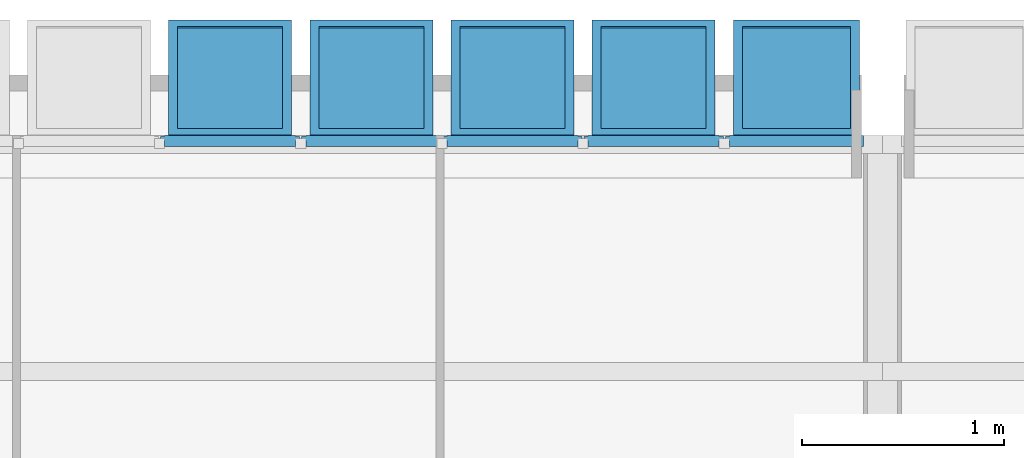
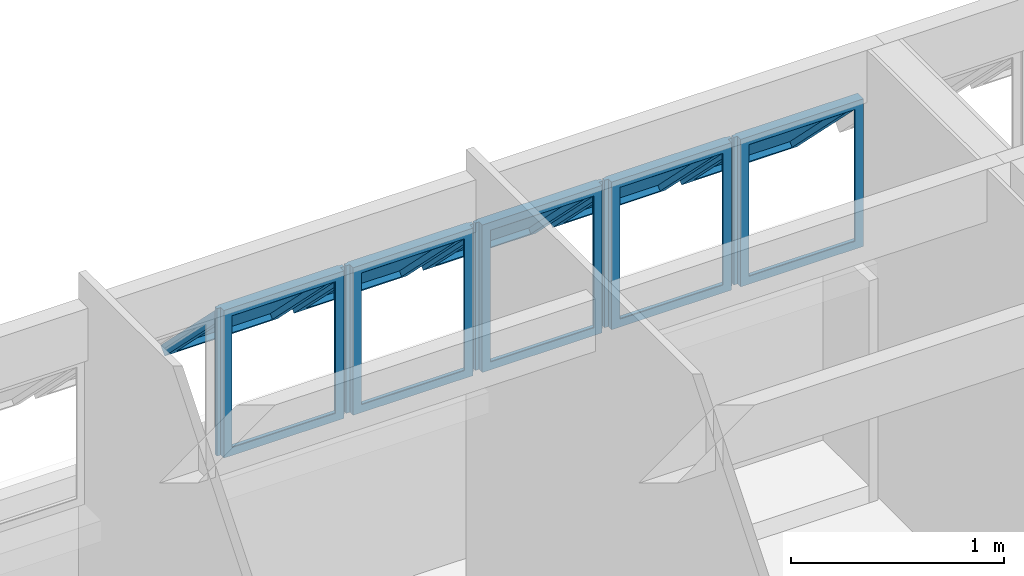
# One storey, part 15 of 40: 5 plates, 1 element without a shape of its own.
"""IFC4 building model written with IfcOpenShell, lengths in millimetres."""

from ifc_helpers import new_model, entity, si_unit, converted_unit, derived_unit, direction, frame, origin_with_axes, place, context, subcontext, project, spatial, polygons, source, transform, mapped, material, constituent, constituent_set, type_object, element, aggregate, save


model = new_model("IFC4")

# Units and contexts
model_context = context("Model", 3, precision=0.01, world=origin_with_axes(), true_north=direction((0.0, 1.0)))
body_context = subcontext(model_context, "Body", "Model", "MODEL_VIEW")
ifc_project = project(units=[si_unit("LENGTHUNIT", "METRE", prefix="MILLI"), si_unit("AREAUNIT", "SQUARE_METRE"), si_unit("VOLUMEUNIT", "CUBIC_METRE"), converted_unit("PLANEANGLEUNIT", "DEGREE", entity("IfcPlaneAngleMeasure", 0.0174532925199), si_unit("PLANEANGLEUNIT", "RADIAN"), dimensions=[0, 0, 0, 0, 0, 0, 0]), converted_unit("TIMEUNIT", "Year", entity("IfcTimeMeasure", 31556926.0), si_unit("TIMEUNIT", "SECOND"), dimensions=[0, 0, 1, 0, 0, 0, 0]), si_unit("MASSUNIT", "GRAM", prefix="KILO"), si_unit("THERMODYNAMICTEMPERATUREUNIT", "DEGREE_CELSIUS"), si_unit("LUMINOUSINTENSITYUNIT", "LUMEN"), si_unit("ENERGYUNIT", "JOULE", prefix="MEGA"), derived_unit("THERMALCONDUCTANCEUNIT", [(si_unit("POWERUNIT", "WATT"), 1), (si_unit("LENGTHUNIT", "METRE"), -1), (si_unit("THERMODYNAMICTEMPERATUREUNIT", "KELVIN"), -1)]), derived_unit("SPECIFICHEATCAPACITYUNIT", [(si_unit("ENERGYUNIT", "JOULE"), 1), (si_unit("MASSUNIT", "GRAM", prefix="KILO"), -1), (si_unit("THERMODYNAMICTEMPERATUREUNIT", "KELVIN"), -1)]), derived_unit("MASSDENSITYUNIT", [(si_unit("MASSUNIT", "GRAM", prefix="KILO"), 1), (si_unit("VOLUMEUNIT", "CUBIC_METRE"), -1)])], contexts=[model_context])

# Site, building, storey
site_placement = place(None, origin_with_axes())
site = spatial("IfcSite", under=ifc_project, at=site_placement, Name="Local", CompositionType="ELEMENT")
building_placement = place(site_placement, origin_with_axes())
building = spatial("IfcBuilding", under=site, at=building_placement, Name="Construção", CompositionType="ELEMENT")
storey_placement = place(building_placement, origin_with_axes())
storey = spatial("IfcBuildingStorey", under=building, at=storey_placement, Name="Primeiro Pavimento", CompositionType="ELEMENT", Elevation=0.0)

# Window, plates
window_type = type_object("IfcWindowType", Name="Tipo de Parede Cortina", PartitioningType="NOTDEFINED", PredefinedType="NOTDEFINED")
window_placement = place(storey_placement, frame((6250.0, 25844.9790225, 1355.02054151), z_axis=(0.0, 0.0, 1.0), x_axis=(1.0, 0.0, 0.0)))
window = element("IfcWindow", 1, at=window_placement, inside=storey, type_object=window_type, Name="APTO3-JANELA-001", PredefinedType="NOTDEFINED")
ifc_material_1 = material(Name="Alumínio")
ifc_constituent_1 = constituent(ifc_material_1, Name="Alumínio")
ifc_material_2 = material(Name="Vidro")
ifc_constituent_2 = constituent(ifc_material_2, Name="Vidro")
ifc_constituent_set_1 = constituent_set(constituents=[ifc_constituent_1, ifc_constituent_2])
plate_type_1 = type_object("IfcPlateType", Name="Painel Principal 690 x 845 x 20", PredefinedType="CURTAIN_PANEL")
shared_shape_1 = source(origin_with_axes(), body_context, "Body", "Tessellation", [
    polygons([(-25.0000036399, 0.0, -40.0), (-25.0000036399, 0.0, -35.0), (-674.999997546, 0.0, -35.0), (-674.999997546, 0.0, -40.0), (-70.0000036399, 45.0, -40.0), (-70.0000036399, 45.0, -35.0), (-629.999997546, 45.0, -35.0), (-629.999997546, 45.0, -40.0)], [[[1, 2, 3, 4]], [[5, 6, 2, 1]], [[2, 6, 7, 3]], [[4, 3, 7, 8]], [[1, 4, 8, 5]], [[8, 7, 6, 5]]], closed=True),
    polygons([(-674.999997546, 0.0, -40.0), (-674.999997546, 0.0, -35.0), (-674.999997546, 844.999891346, -35.0), (-674.999997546, 844.999891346, -40.0), (-629.999997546, 45.0, -40.0), (-629.999997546, 45.0, -35.0), (-629.999997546, 799.999891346, -35.0), (-629.999997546, 799.999891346, -40.0)], [[[1, 2, 3, 4]], [[5, 6, 2, 1]], [[2, 6, 7, 3]], [[4, 3, 7, 8]], [[1, 4, 8, 5]], [[8, 7, 6, 5]]], closed=True),
    polygons([(-25.0000036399, 844.999891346, -40.0), (-25.0000036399, 844.999891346, -35.0), (-70.0000036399, 799.999891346, -35.0), (-70.0000036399, 799.999891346, -40.0), (-674.999997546, 844.999891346, -40.0), (-674.999997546, 844.999891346, -35.0), (-629.999997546, 799.999891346, -35.0), (-629.999997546, 799.999891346, -40.0)], [[[1, 2, 3, 4]], [[5, 6, 2, 1]], [[2, 6, 7, 3]], [[4, 3, 7, 8]], [[1, 4, 8, 5]], [[8, 7, 6, 5]]], closed=True),
    polygons([(-25.0000036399, 0.0, -40.0), (-25.0000036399, 0.0, -35.0), (-70.0000036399, 45.0, -35.0), (-70.0000036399, 45.0, -40.0), (-25.0000036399, 844.999891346, -40.0), (-25.0000036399, 844.999891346, -35.0), (-70.0000036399, 799.999891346, -35.0), (-70.0000036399, 799.999891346, -40.0)], [[[1, 2, 3, 4]], [[5, 6, 2, 1]], [[2, 6, 7, 3]], [[4, 3, 7, 8]], [[1, 4, 8, 5]], [[8, 7, 6, 5]]], closed=True),
    polygons([(-25.0000036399, 0.0, -35.0), (-25.0000036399, 0.0, 15.0), (-674.999997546, 0.0, 15.0), (-674.999997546, 0.0, -35.0), (-45.0000036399, 20.0, -35.0), (-45.0000036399, 20.0, 15.0), (-654.999997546, 20.0, 15.0), (-654.999997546, 20.0, -35.0)], [[[1, 2, 3, 4]], [[5, 6, 2, 1]], [[2, 6, 7, 3]], [[4, 3, 7, 8]], [[1, 4, 8, 5]], [[8, 7, 6, 5]]], closed=True),
    polygons([(-674.999997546, 0.0, -35.0), (-674.999997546, 0.0, 15.0), (-674.999997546, 844.999891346, 15.0), (-674.999997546, 844.999891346, -35.0), (-654.999997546, 20.0, -35.0), (-654.999997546, 20.0, 15.0), (-654.999997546, 824.999891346, 15.0), (-654.999997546, 824.999891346, -35.0)], [[[1, 2, 3, 4]], [[5, 6, 2, 1]], [[2, 6, 7, 3]], [[4, 3, 7, 8]], [[1, 4, 8, 5]], [[8, 7, 6, 5]]], closed=True),
    polygons([(-25.0000036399, 844.999891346, -35.0), (-25.0000036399, 844.999891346, 15.0), (-45.0000036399, 824.999891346, 15.0), (-45.0000036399, 824.999891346, -35.0), (-674.999997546, 844.999891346, -35.0), (-674.999997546, 844.999891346, 15.0), (-654.999997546, 824.999891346, 15.0), (-654.999997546, 824.999891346, -35.0)], [[[1, 2, 3, 4]], [[5, 6, 2, 1]], [[2, 6, 7, 3]], [[4, 3, 7, 8]], [[1, 4, 8, 5]], [[8, 7, 6, 5]]], closed=True),
    polygons([(-25.0000036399, 0.0, -35.0), (-25.0000036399, 0.0, 15.0), (-45.0000036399, 20.0, 15.0), (-45.0000036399, 20.0, -35.0), (-25.0000036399, 844.999891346, -35.0), (-25.0000036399, 844.999891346, 15.0), (-45.0000036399, 824.999891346, 15.0), (-45.0000036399, 824.999891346, -35.0)], [[[1, 2, 3, 4]], [[5, 6, 2, 1]], [[2, 6, 7, 3]], [[4, 3, 7, 8]], [[1, 4, 8, 5]], [[8, 7, 6, 5]]], closed=True),
    polygons([(-694.999995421, 0.0, -10.0), (-694.999995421, 0.0, 10.0), (-694.999995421, 844.999891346, 10.0), (-694.999995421, 844.999891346, -10.0), (-674.999997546, 0.0, -10.0), (-674.999997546, 0.0, 10.0), (-674.999997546, 844.999891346, 10.0), (-674.999997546, 844.999891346, -10.0)], [[[1, 2, 3, 4]], [[5, 6, 2, 1]], [[2, 6, 7, 3]], [[4, 3, 7, 8]], [[1, 4, 8, 5]], [[8, 7, 6, 5]]], closed=True),
    polygons([(-5.00000576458, 844.999891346, -10.0), (-5.00000576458, 844.999891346, 10.0), (-5.00000576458, 0.0, 10.0), (-5.00000576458, 0.0, -10.0), (-25.0000036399, 844.999891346, -10.0), (-25.0000036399, 844.999891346, 10.0), (-25.0000036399, 0.0, 10.0), (-25.0000036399, 0.0, -10.0)], [[[1, 2, 3, 4]], [[5, 6, 2, 1]], [[2, 6, 7, 3]], [[4, 3, 7, 8]], [[1, 4, 8, 5]], [[8, 7, 6, 5]]], closed=True),
    polygons([(-90.0000036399, 252.243475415, 517.045737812), (-90.0000036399, 291.13434838, 555.936610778), (-90.0000036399, 796.715620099, 50.3553390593), (-90.0000036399, 757.824747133, 11.4644660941), (-45.0000036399, 220.423670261, 548.865542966), (-45.0000036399, 259.314543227, 587.756415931), (-45.0000036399, 828.535425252, 18.5355339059), (-45.0000036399, 789.644552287, -20.3553390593)], [[[1, 2, 3, 4]], [[5, 6, 2, 1]], [[2, 6, 7, 3]], [[4, 3, 7, 8]], [[1, 4, 8, 5]], [[8, 7, 6, 5]]], closed=True),
    polygons([(-654.999997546, 220.423670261, 548.865542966), (-654.999997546, 259.314543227, 587.756415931), (-654.999997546, 828.535425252, 18.5355339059), (-654.999997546, 789.644552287, -20.3553390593), (-609.999997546, 252.243475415, 517.045737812), (-609.999997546, 291.13434838, 555.936610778), (-609.999997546, 796.715620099, 50.3553390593), (-609.999997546, 757.824747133, 11.4644660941)], [[[1, 2, 3, 4]], [[5, 6, 2, 1]], [[2, 6, 7, 3]], [[4, 3, 7, 8]], [[1, 4, 8, 5]], [[8, 7, 6, 5]]], closed=True),
    polygons([(-654.999997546, 220.423670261, 548.865542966), (-654.999997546, 259.314543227, 587.756415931), (-609.999997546, 291.13434838, 555.936610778), (-609.999997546, 252.243475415, 517.045737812), (-45.0000036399, 220.423670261, 548.865542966), (-45.0000036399, 259.314543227, 587.756415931), (-90.0000036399, 291.13434838, 555.936610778), (-90.0000036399, 252.243475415, 517.045737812)], [[[1, 2, 3, 4]], [[5, 6, 2, 1]], [[2, 6, 7, 3]], [[4, 3, 7, 8]], [[1, 4, 8, 5]], [[8, 7, 6, 5]]], closed=True),
    polygons([(-45.0000036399, 789.644552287, -20.3553390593), (-45.0000036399, 828.535425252, 18.5355339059), (-90.0000036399, 796.715620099, 50.3553390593), (-90.0000036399, 757.824747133, 11.4644660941), (-654.999997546, 789.644552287, -20.3553390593), (-654.999997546, 828.535425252, 18.5355339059), (-609.999997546, 796.715620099, 50.3553390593), (-609.999997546, 757.824747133, 11.4644660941)], [[[1, 2, 3, 4]], [[5, 6, 2, 1]], [[2, 6, 7, 3]], [[4, 3, 7, 8]], [[1, 4, 8, 5]], [[8, 7, 6, 5]]], closed=True),
    polygons([(-90.0000036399, 272.749572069, 537.551834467), (-90.0000036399, 284.063280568, 548.865542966), (-609.999997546, 284.063280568, 548.865542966), (-609.999997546, 272.749572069, 537.551834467), (-90.0000036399, 778.330843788, 31.9705627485), (-90.0000036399, 789.644552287, 43.2842712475), (-609.999997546, 789.644552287, 43.2842712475), (-609.999997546, 778.330843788, 31.9705627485)], [[[1, 2, 3, 4]], [[5, 6, 2, 1]], [[2, 6, 7, 3]], [[4, 3, 7, 8]], [[1, 4, 8, 5]], [[8, 7, 6, 5]]], closed=True),
])
plate_1_placement = place(window_placement, frame((0.0, 0.0, 422.499945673), z_axis=(0.0, 0.0, 1.0), x_axis=(-1.0, 0.0, 0.0)))
plate_1 = element("IfcPlate", 2, at=plate_1_placement, type_object=plate_type_1, material=ifc_constituent_set_1, Name="APTO3-Painel-Prin-030", PredefinedType="CURTAIN_PANEL", context=body_context, shape_type="MappedRepresentation", body=[
    mapped(shared_shape_1, transform((350.0, 0.0, -422.499945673), x_axis=(1.0, 0.0, 0.0), y_axis=(0.0, 0.0, 1.0), z_axis=(0.0, -1.0, 0.0))),
])
ifc_constituent_3 = constituent(ifc_material_1, Name="Alumínio")
ifc_constituent_4 = constituent(ifc_material_2, Name="Vidro")
ifc_constituent_set_2 = constituent_set(constituents=[ifc_constituent_3, ifc_constituent_4])
plate_2_placement = place(window_placement, frame((-700.0, 0.0, 422.499945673), z_axis=(0.0, 0.0, 1.0), x_axis=(-1.0, 0.0, 0.0)))
plate_2 = element("IfcPlate", 3, at=plate_2_placement, type_object=plate_type_1, material=ifc_constituent_set_2, Name="APTO3-Painel-Prin-020", PredefinedType="CURTAIN_PANEL", context=body_context, shape_type="MappedRepresentation", body=[
    mapped(shared_shape_1, transform((350.0, 0.0, -422.499945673), x_axis=(1.0, 0.0, 0.0), y_axis=(0.0, 0.0, 1.0), z_axis=(0.0, -1.0, 0.0))),
])
ifc_constituent_5 = constituent(ifc_material_1, Name="Alumínio")
ifc_constituent_6 = constituent(ifc_material_2, Name="Vidro")
ifc_constituent_set_3 = constituent_set(constituents=[ifc_constituent_5, ifc_constituent_6])
plate_3_placement = place(window_placement, frame((-1400.0, 0.0, 422.499945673), z_axis=(0.0, 0.0, 1.0), x_axis=(-1.0, 0.0, 0.0)))
plate_3 = element("IfcPlate", 4, at=plate_3_placement, type_object=plate_type_1, material=ifc_constituent_set_3, Name="APTO3-Painel-Prin-029", PredefinedType="CURTAIN_PANEL", context=body_context, shape_type="MappedRepresentation", body=[
    mapped(shared_shape_1, transform((350.0, 0.0, -422.499945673), x_axis=(1.0, 0.0, 0.0), y_axis=(0.0, 0.0, 1.0), z_axis=(0.0, -1.0, 0.0))),
])
ifc_constituent_7 = constituent(ifc_material_1, Name="Alumínio")
ifc_constituent_8 = constituent(ifc_material_2, Name="Vidro")
ifc_constituent_set_4 = constituent_set(constituents=[ifc_constituent_7, ifc_constituent_8])
shared_shape_2 = source(origin_with_axes(), body_context, "Body", "Tessellation", [
    polygons([(-25.0000036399, 0.0, -40.0), (-25.0000036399, 0.0, -35.0), (-674.999997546, 0.0, -35.0), (-674.999997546, 0.0, -40.0), (-70.0000036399, 45.0, -40.0), (-70.0000036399, 45.0, -35.0), (-629.999997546, 45.0, -35.0), (-629.999997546, 45.0, -40.0)], [[[1, 2, 3, 4]], [[5, 6, 2, 1]], [[2, 6, 7, 3]], [[4, 3, 7, 8]], [[1, 4, 8, 5]], [[8, 7, 6, 5]]], closed=True),
    polygons([(-674.999997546, 0.0, -40.0), (-674.999997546, 0.0, -35.0), (-674.999997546, 844.999891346, -35.0), (-674.999997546, 844.999891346, -40.0), (-629.999997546, 45.0, -40.0), (-629.999997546, 45.0, -35.0), (-629.999997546, 799.999891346, -35.0), (-629.999997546, 799.999891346, -40.0)], [[[1, 2, 3, 4]], [[5, 6, 2, 1]], [[2, 6, 7, 3]], [[4, 3, 7, 8]], [[1, 4, 8, 5]], [[8, 7, 6, 5]]], closed=True),
    polygons([(-25.0000036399, 844.999891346, -40.0), (-25.0000036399, 844.999891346, -35.0), (-70.0000036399, 799.999891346, -35.0), (-70.0000036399, 799.999891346, -40.0), (-674.999997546, 844.999891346, -40.0), (-674.999997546, 844.999891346, -35.0), (-629.999997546, 799.999891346, -35.0), (-629.999997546, 799.999891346, -40.0)], [[[1, 2, 3, 4]], [[5, 6, 2, 1]], [[2, 6, 7, 3]], [[4, 3, 7, 8]], [[1, 4, 8, 5]], [[8, 7, 6, 5]]], closed=True),
    polygons([(-25.0000036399, 0.0, -40.0), (-25.0000036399, 0.0, -35.0), (-70.0000036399, 45.0, -35.0), (-70.0000036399, 45.0, -40.0), (-25.0000036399, 844.999891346, -40.0), (-25.0000036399, 844.999891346, -35.0), (-70.0000036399, 799.999891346, -35.0), (-70.0000036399, 799.999891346, -40.0)], [[[1, 2, 3, 4]], [[5, 6, 2, 1]], [[2, 6, 7, 3]], [[4, 3, 7, 8]], [[1, 4, 8, 5]], [[8, 7, 6, 5]]], closed=True),
    polygons([(-25.0000036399, 0.0, -35.0), (-25.0000036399, 0.0, 15.0), (-674.999997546, 0.0, 15.0), (-674.999997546, 0.0, -35.0), (-45.0000036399, 20.0, -35.0), (-45.0000036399, 20.0, 15.0), (-654.999997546, 20.0, 15.0), (-654.999997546, 20.0, -35.0)], [[[1, 2, 3, 4]], [[5, 6, 2, 1]], [[2, 6, 7, 3]], [[4, 3, 7, 8]], [[1, 4, 8, 5]], [[8, 7, 6, 5]]], closed=True),
    polygons([(-674.999997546, 0.0, -35.0), (-674.999997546, 0.0, 15.0), (-674.999997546, 844.999891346, 15.0), (-674.999997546, 844.999891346, -35.0), (-654.999997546, 20.0, -35.0), (-654.999997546, 20.0, 15.0), (-654.999997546, 824.999891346, 15.0), (-654.999997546, 824.999891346, -35.0)], [[[1, 2, 3, 4]], [[5, 6, 2, 1]], [[2, 6, 7, 3]], [[4, 3, 7, 8]], [[1, 4, 8, 5]], [[8, 7, 6, 5]]], closed=True),
    polygons([(-25.0000036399, 844.999891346, -35.0), (-25.0000036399, 844.999891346, 15.0), (-45.0000036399, 824.999891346, 15.0), (-45.0000036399, 824.999891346, -35.0), (-674.999997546, 844.999891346, -35.0), (-674.999997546, 844.999891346, 15.0), (-654.999997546, 824.999891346, 15.0), (-654.999997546, 824.999891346, -35.0)], [[[1, 2, 3, 4]], [[5, 6, 2, 1]], [[2, 6, 7, 3]], [[4, 3, 7, 8]], [[1, 4, 8, 5]], [[8, 7, 6, 5]]], closed=True),
    polygons([(-25.0000036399, 0.0, -35.0), (-25.0000036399, 0.0, 15.0), (-45.0000036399, 20.0, 15.0), (-45.0000036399, 20.0, -35.0), (-25.0000036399, 844.999891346, -35.0), (-25.0000036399, 844.999891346, 15.0), (-45.0000036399, 824.999891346, 15.0), (-45.0000036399, 824.999891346, -35.0)], [[[1, 2, 3, 4]], [[5, 6, 2, 1]], [[2, 6, 7, 3]], [[4, 3, 7, 8]], [[1, 4, 8, 5]], [[8, 7, 6, 5]]], closed=True),
    polygons([(-694.999995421, 0.0, -10.0), (-694.999995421, 0.0, 10.0), (-694.999995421, 844.999891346, 10.0), (-694.999995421, 844.999891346, -10.0), (-674.999997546, 0.0, -10.0), (-674.999997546, 0.0, 10.0), (-674.999997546, 844.999891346, 10.0), (-674.999997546, 844.999891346, -10.0)], [[[1, 2, 3, 4]], [[5, 6, 2, 1]], [[2, 6, 7, 3]], [[4, 3, 7, 8]], [[1, 4, 8, 5]], [[8, 7, 6, 5]]], closed=True),
    polygons([(-5.00000576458, 844.999891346, -10.0), (-5.00000576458, 844.999891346, 10.0), (-5.00000576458, 0.0, 10.0), (-5.00000576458, 0.0, -10.0), (-25.0000036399, 844.999891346, -10.0), (-25.0000036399, 844.999891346, 10.0), (-25.0000036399, 0.0, 10.0), (-25.0000036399, 0.0, -10.0)], [[[1, 2, 3, 4]], [[5, 6, 2, 1]], [[2, 6, 7, 3]], [[4, 3, 7, 8]], [[1, 4, 8, 5]], [[8, 7, 6, 5]]], closed=True),
    polygons([(-90.0000036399, 252.243475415, 517.045737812), (-90.0000036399, 291.13434838, 555.936610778), (-90.0000036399, 796.715620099, 50.3553390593), (-90.0000036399, 757.824747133, 11.4644660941), (-45.0000036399, 220.423670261, 548.865542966), (-45.0000036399, 259.314543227, 587.756415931), (-45.0000036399, 828.535425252, 18.5355339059), (-45.0000036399, 789.644552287, -20.3553390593)], [[[1, 2, 3, 4]], [[5, 6, 2, 1]], [[2, 6, 7, 3]], [[4, 3, 7, 8]], [[1, 4, 8, 5]], [[8, 7, 6, 5]]], closed=True),
    polygons([(-654.999997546, 220.423670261, 548.865542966), (-654.999997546, 259.314543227, 587.756415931), (-654.999997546, 828.535425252, 18.5355339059), (-654.999997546, 789.644552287, -20.3553390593), (-609.999997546, 252.243475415, 517.045737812), (-609.999997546, 291.13434838, 555.936610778), (-609.999997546, 796.715620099, 50.3553390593), (-609.999997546, 757.824747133, 11.4644660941)], [[[1, 2, 3, 4]], [[5, 6, 2, 1]], [[2, 6, 7, 3]], [[4, 3, 7, 8]], [[1, 4, 8, 5]], [[8, 7, 6, 5]]], closed=True),
    polygons([(-654.999997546, 220.423670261, 548.865542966), (-654.999997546, 259.314543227, 587.756415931), (-609.999997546, 291.13434838, 555.936610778), (-609.999997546, 252.243475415, 517.045737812), (-45.0000036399, 220.423670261, 548.865542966), (-45.0000036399, 259.314543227, 587.756415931), (-90.0000036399, 291.13434838, 555.936610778), (-90.0000036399, 252.243475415, 517.045737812)], [[[1, 2, 3, 4]], [[5, 6, 2, 1]], [[2, 6, 7, 3]], [[4, 3, 7, 8]], [[1, 4, 8, 5]], [[8, 7, 6, 5]]], closed=True),
    polygons([(-45.0000036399, 789.644552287, -20.3553390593), (-45.0000036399, 828.535425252, 18.5355339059), (-90.0000036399, 796.715620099, 50.3553390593), (-90.0000036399, 757.824747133, 11.4644660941), (-654.999997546, 789.644552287, -20.3553390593), (-654.999997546, 828.535425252, 18.5355339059), (-609.999997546, 796.715620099, 50.3553390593), (-609.999997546, 757.824747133, 11.4644660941)], [[[1, 2, 3, 4]], [[5, 6, 2, 1]], [[2, 6, 7, 3]], [[4, 3, 7, 8]], [[1, 4, 8, 5]], [[8, 7, 6, 5]]], closed=True),
    polygons([(-90.0000036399, 272.749572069, 537.551834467), (-90.0000036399, 284.063280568, 548.865542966), (-609.999997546, 284.063280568, 548.865542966), (-609.999997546, 272.749572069, 537.551834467), (-90.0000036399, 778.330843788, 31.9705627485), (-90.0000036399, 789.644552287, 43.2842712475), (-609.999997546, 789.644552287, 43.2842712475), (-609.999997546, 778.330843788, 31.9705627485)], [[[1, 2, 3, 4]], [[5, 6, 2, 1]], [[2, 6, 7, 3]], [[4, 3, 7, 8]], [[1, 4, 8, 5]], [[8, 7, 6, 5]]], closed=True),
])
plate_4_placement = place(window_placement, frame((-2100.0, 0.0, 422.499945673), z_axis=(0.0, 0.0, 1.0), x_axis=(-1.0, 0.0, 0.0)))
plate_4 = element("IfcPlate", 5, at=plate_4_placement, type_object=plate_type_1, material=ifc_constituent_set_4, Name="APTO3-Painel-Prin-025", PredefinedType="CURTAIN_PANEL", context=body_context, shape_type="MappedRepresentation", body=[
    mapped(shared_shape_2, transform((350.0, 0.0, -422.499945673), x_axis=(1.0, 0.0, 0.0), y_axis=(0.0, 0.0, 1.0), z_axis=(0.0, -1.0, 0.0))),
])
ifc_constituent_9 = constituent(ifc_material_1, Name="Alumínio")
ifc_constituent_10 = constituent(ifc_material_2, Name="Vidro")
ifc_constituent_set_5 = constituent_set(constituents=[ifc_constituent_9, ifc_constituent_10])
plate_type_2 = type_object("IfcPlateType", Name="Painel Principal 685 x 845 x 20", PredefinedType="CURTAIN_PANEL")
shared_shape_3 = source(origin_with_axes(), body_context, "Body", "Tessellation", [
    polygons([(-25.0000046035, 0.0, -40.0), (-25.0000046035, 0.0, -35.0), (-690.000079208, 0.0, -35.0), (-690.000079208, 0.0, -40.0), (-70.0000046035, 45.0, -40.0), (-70.0000046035, 45.0, -35.0), (-645.000079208, 45.0, -35.0), (-645.000079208, 45.0, -40.0)], [[[1, 2, 3, 4]], [[5, 6, 2, 1]], [[2, 6, 7, 3]], [[4, 3, 7, 8]], [[1, 4, 8, 5]], [[8, 7, 6, 5]]], closed=True),
    polygons([(-690.000079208, 0.0, -40.0), (-690.000079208, 0.0, -35.0), (-690.000079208, 844.999923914, -35.0), (-690.000079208, 844.999923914, -40.0), (-645.000079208, 45.0, -40.0), (-645.000079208, 45.0, -35.0), (-645.000079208, 799.999923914, -35.0), (-645.000079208, 799.999923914, -40.0)], [[[1, 2, 3, 4]], [[5, 6, 2, 1]], [[2, 6, 7, 3]], [[4, 3, 7, 8]], [[1, 4, 8, 5]], [[8, 7, 6, 5]]], closed=True),
    polygons([(-25.0000046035, 844.999923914, -40.0), (-25.0000046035, 844.999923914, -35.0), (-70.0000046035, 799.999923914, -35.0), (-70.0000046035, 799.999923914, -40.0), (-690.000079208, 844.999923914, -40.0), (-690.000079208, 844.999923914, -35.0), (-645.000079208, 799.999923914, -35.0), (-645.000079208, 799.999923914, -40.0)], [[[1, 2, 3, 4]], [[5, 6, 2, 1]], [[2, 6, 7, 3]], [[4, 3, 7, 8]], [[1, 4, 8, 5]], [[8, 7, 6, 5]]], closed=True),
    polygons([(-25.0000046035, 0.0, -40.0), (-25.0000046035, 0.0, -35.0), (-70.0000046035, 45.0, -35.0), (-70.0000046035, 45.0, -40.0), (-25.0000046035, 844.999923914, -40.0), (-25.0000046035, 844.999923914, -35.0), (-70.0000046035, 799.999923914, -35.0), (-70.0000046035, 799.999923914, -40.0)], [[[1, 2, 3, 4]], [[5, 6, 2, 1]], [[2, 6, 7, 3]], [[4, 3, 7, 8]], [[1, 4, 8, 5]], [[8, 7, 6, 5]]], closed=True),
    polygons([(-25.0000046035, 0.0, -35.0), (-25.0000046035, 0.0, 15.0), (-690.000079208, 0.0, 15.0), (-690.000079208, 0.0, -35.0), (-45.0000046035, 20.0, -35.0), (-45.0000046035, 20.0, 15.0), (-670.000079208, 20.0, 15.0), (-670.000079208, 20.0, -35.0)], [[[1, 2, 3, 4]], [[5, 6, 2, 1]], [[2, 6, 7, 3]], [[4, 3, 7, 8]], [[1, 4, 8, 5]], [[8, 7, 6, 5]]], closed=True),
    polygons([(-690.000079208, 0.0, -35.0), (-690.000079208, 0.0, 15.0), (-690.000079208, 844.999923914, 15.0), (-690.000079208, 844.999923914, -35.0), (-670.000079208, 20.0, -35.0), (-670.000079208, 20.0, 15.0), (-670.000079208, 824.999923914, 15.0), (-670.000079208, 824.999923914, -35.0)], [[[1, 2, 3, 4]], [[5, 6, 2, 1]], [[2, 6, 7, 3]], [[4, 3, 7, 8]], [[1, 4, 8, 5]], [[8, 7, 6, 5]]], closed=True),
    polygons([(-25.0000046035, 844.999923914, -35.0), (-25.0000046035, 844.999923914, 15.0), (-45.0000046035, 824.999923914, 15.0), (-45.0000046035, 824.999923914, -35.0), (-690.000079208, 844.999923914, -35.0), (-690.000079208, 844.999923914, 15.0), (-670.000079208, 824.999923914, 15.0), (-670.000079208, 824.999923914, -35.0)], [[[1, 2, 3, 4]], [[5, 6, 2, 1]], [[2, 6, 7, 3]], [[4, 3, 7, 8]], [[1, 4, 8, 5]], [[8, 7, 6, 5]]], closed=True),
    polygons([(-25.0000046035, 0.0, -35.0), (-25.0000046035, 0.0, 15.0), (-45.0000046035, 20.0, 15.0), (-45.0000046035, 20.0, -35.0), (-25.0000046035, 844.999923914, -35.0), (-25.0000046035, 844.999923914, 15.0), (-45.0000046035, 824.999923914, 15.0), (-45.0000046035, 824.999923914, -35.0)], [[[1, 2, 3, 4]], [[5, 6, 2, 1]], [[2, 6, 7, 3]], [[4, 3, 7, 8]], [[1, 4, 8, 5]], [[8, 7, 6, 5]]], closed=True),
    polygons([(-5.00000595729, 844.999923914, -10.0), (-5.00000595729, 844.999923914, 10.0), (-5.00000595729, 0.0, 10.0), (-5.00000595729, 0.0, -10.0), (-25.0000046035, 844.999923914, -10.0), (-25.0000046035, 844.999923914, 10.0), (-25.0000046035, 0.0, 10.0), (-25.0000046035, 0.0, -10.0)], [[[1, 2, 3, 4]], [[5, 6, 2, 1]], [[2, 6, 7, 3]], [[4, 3, 7, 8]], [[1, 4, 8, 5]], [[8, 7, 6, 5]]], closed=True),
    polygons([(-90.0000046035, 252.243484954, 517.045760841), (-90.0000046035, 291.134357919, 555.936633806), (-90.0000046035, 796.715652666, 50.3553390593), (-90.0000046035, 757.824779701, 11.4644660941), (-45.0000046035, 220.4236798, 548.865565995), (-45.0000046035, 259.314552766, 587.75643896), (-45.0000046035, 828.535457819, 18.5355339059), (-45.0000046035, 789.644584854, -20.3553390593)], [[[1, 2, 3, 4]], [[5, 6, 2, 1]], [[2, 6, 7, 3]], [[4, 3, 7, 8]], [[1, 4, 8, 5]], [[8, 7, 6, 5]]], closed=True),
    polygons([(-670.000079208, 220.4236798, 548.865565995), (-670.000079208, 259.314552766, 587.75643896), (-670.000079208, 828.535457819, 18.5355339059), (-670.000079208, 789.644584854, -20.3553390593), (-625.000079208, 252.243484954, 517.045760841), (-625.000079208, 291.134357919, 555.936633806), (-625.000079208, 796.715652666, 50.3553390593), (-625.000079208, 757.824779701, 11.4644660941)], [[[1, 2, 3, 4]], [[5, 6, 2, 1]], [[2, 6, 7, 3]], [[4, 3, 7, 8]], [[1, 4, 8, 5]], [[8, 7, 6, 5]]], closed=True),
    polygons([(-670.000079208, 220.4236798, 548.865565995), (-670.000079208, 259.314552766, 587.75643896), (-625.000079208, 291.134357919, 555.936633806), (-625.000079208, 252.243484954, 517.045760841), (-45.0000046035, 220.4236798, 548.865565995), (-45.0000046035, 259.314552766, 587.75643896), (-90.0000046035, 291.134357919, 555.936633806), (-90.0000046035, 252.243484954, 517.045760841)], [[[1, 2, 3, 4]], [[5, 6, 2, 1]], [[2, 6, 7, 3]], [[4, 3, 7, 8]], [[1, 4, 8, 5]], [[8, 7, 6, 5]]], closed=True),
    polygons([(-45.0000046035, 789.644584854, -20.3553390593), (-45.0000046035, 828.535457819, 18.5355339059), (-90.0000046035, 796.715652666, 50.3553390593), (-90.0000046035, 757.824779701, 11.4644660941), (-670.000079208, 789.644584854, -20.3553390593), (-670.000079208, 828.535457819, 18.5355339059), (-625.000079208, 796.715652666, 50.3553390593), (-625.000079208, 757.824779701, 11.4644660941)], [[[1, 2, 3, 4]], [[5, 6, 2, 1]], [[2, 6, 7, 3]], [[4, 3, 7, 8]], [[1, 4, 8, 5]], [[8, 7, 6, 5]]], closed=True),
    polygons([(-90.0000046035, 272.749581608, 537.551857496), (-90.0000046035, 284.063290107, 548.865565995), (-625.000079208, 284.063290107, 548.865565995), (-625.000079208, 272.749581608, 537.551857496), (-90.0000046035, 778.330876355, 31.9705627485), (-90.0000046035, 789.644584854, 43.2842712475), (-625.000079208, 789.644584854, 43.2842712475), (-625.000079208, 778.330876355, 31.9705627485)], [[[1, 2, 3, 4]], [[5, 6, 2, 1]], [[2, 6, 7, 3]], [[4, 3, 7, 8]], [[1, 4, 8, 5]], [[8, 7, 6, 5]]], closed=True),
])
plate_5_placement = place(window_placement, frame((695.000037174, 0.0, 422.499953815), z_axis=(0.0, 0.0, 1.0), x_axis=(-1.0, 0.0, 0.0)))
plate_5 = element("IfcPlate", 6, at=plate_5_placement, type_object=plate_type_2, material=ifc_constituent_set_5, Name="APTO3-Painel-Prin-031", PredefinedType="CURTAIN_PANEL", context=body_context, shape_type="MappedRepresentation", body=[
    mapped(shared_shape_3, transform((345.000037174, 0.0, -422.499953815), x_axis=(1.0, 0.0, 0.0), y_axis=(0.0, 0.0, 1.0), z_axis=(0.0, -1.0, 0.0))),
])
aggregate(window, [plate_1, plate_5, plate_4, plate_2, plate_3])

save(model, "model.ifc")
